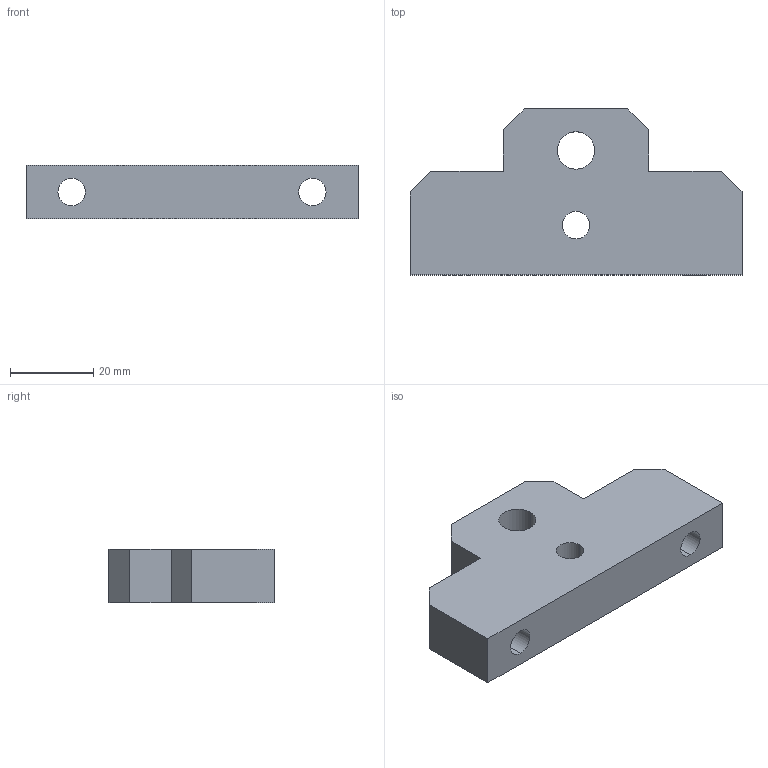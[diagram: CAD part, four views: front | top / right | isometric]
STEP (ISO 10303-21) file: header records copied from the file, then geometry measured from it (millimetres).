
FILE_DESCRIPTION (( 'STEP AP214' ), '1' );
FILE_NAME ('GZ21.08_V1调节块.STEP', '2021-02-26T02:00:30', ( '微软中国' ), ( 'Microsoft' ), 'SwSTEP 2.0', 'SolidWorks 2017', '' );
FILE_SCHEMA (( 'AUTOMOTIVE_DESIGN' ));
Length unit declared in the file: millimetre
Products named in the file (1): GZ21.08_V1覃誹輸
Bounding box: 80 x 40 x 13 mm (x, y, z)
Volume: 28359.1 mm3; surface area: 9448 mm2
Topology: 1 solids, 1 shells, 28 faces, 72 edges, 48 vertices
Faces by surface type: plane 16, cylinder 12
Entity records: 932 total; most frequent: DIRECTION 154, CARTESIAN_POINT 149, ORIENTED_EDGE 144, EDGE_CURVE 72, AXIS2_PLACEMENT_3D 53, VECTOR 48, VERTEX_POINT 48, LINE 48
